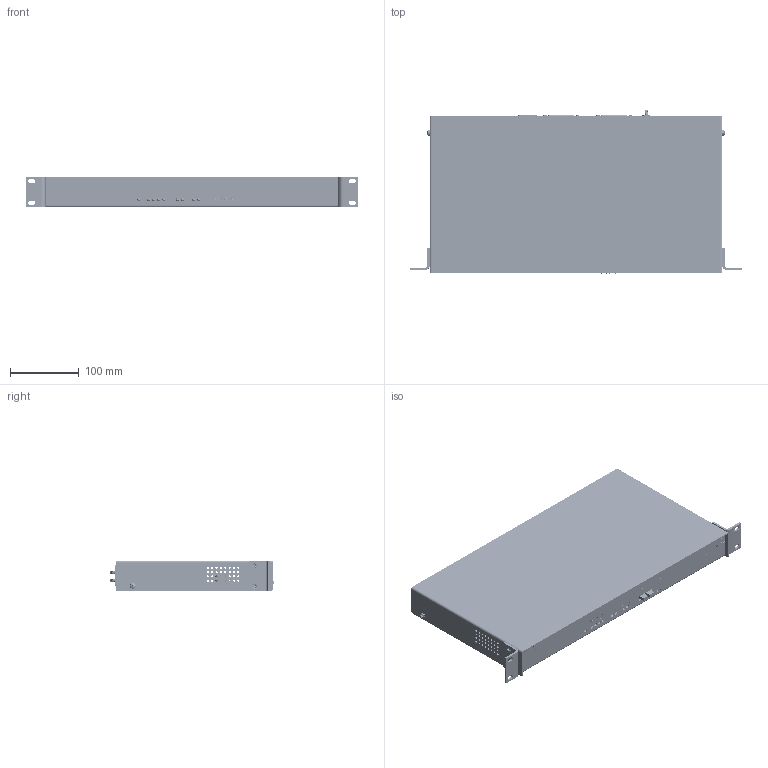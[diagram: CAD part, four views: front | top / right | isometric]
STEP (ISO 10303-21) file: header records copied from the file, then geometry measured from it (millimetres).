
FILE_DESCRIPTION(/* description */ (''),/* implementation_level */ '2;1');
FILE_NAME(/* name */ 'C:/Users/brook/OneDrive/Desktop/Single Chassis Final.step',/* time_stamp */ '2022-05-23T16:12:43-04:00',/* author */ (''),/* organization */ (''),/* preprocessor_version */ 'ST-DEVELOPER v18.1',/* originating_system */ 'Autodesk Translation Framework v10.14.0.1471',/* authorisation */ '');
FILE_SCHEMA (('AUTOMOTIVE_DESIGN { 1 0 10303 214 3 1 1 }'));
Products named in the file (241): Single Chassis Master Assembly; Jack Screw for K42X-B25S-S-A4NJ-rA3; 713008; Standard Bracket; Cover; 708004; Single Chassis; 95345A067_18-8 Stainless Steel Pan Head Screw; 95345A067_18-8 Stainless Steel Pan Head Screw (1); 91771A191_Passivated 18-8 Stainless Steel Phillips Flat Head Screw; 91771A191_Passivated 18-8 Stainless Steel Phillips Flat Head Screw (1
); 91771A191_Passivated 18-8 Stainless Steel Phillips Flat Head Screw (2
); 91771A191_Passivated 18-8 Stainless Steel Phillips Flat Head Screw (3
); 93090A210_Press-Fit Threaded Standoffs; 93580A520_Press-Fit Studs; 96278A411_18-8 Stainless Steel Locknut with External-Tooth Lock Washe
r; PCB; BOARD_OUTLINE; EXTERNAL COPPER; TOP; PADS_TOP; CIRCLE_55001; CIRCLE_250001; CIRCLE_85001; RECT_9000X90001; RECT_7500X75001; CIRCLE_75001; CIRCLE_200001; CIRCLE_65001; RECT_11000X110001; CIRCLE_110001; CIRCLE_68001; RECT_6800X68001; CIRCLE_90001; CIRCLE_150001; CIRCLE_50001; TRACES_TOP; BOTTOM; PADS_BOTTOM; CIRCLE_55004 ...
Assembly tree (2133 placements, depth 6):
  Single Chassis Master Assembly
    93090A210_Press-Fit Threaded Standoffs  x4
    Jack Screw for K42X-B25S-S-A4NJ-rA3  x6
    713008
    Standard Bracket  x2
    Cover
    708004
    Single Chassis
    95345A067_18-8 Stainless Steel Pan Head Screw
    95345A067_18-8 Stainless Steel Pan Head Screw (1)
    91771A191_Passivated 18-8 Stainless Steel Phillips Flat Head Screw
    91771A191_Passivated 18-8 Stainless Steel Phillips Flat Head Screw (1
)
    91771A191_Passivated 18-8 Stainless Steel Phillips Flat Head Screw (2
)
    91771A191_Passivated 18-8 Stainless Steel Phillips Flat Head Screw (3
)
    93580A520_Press-Fit Studs  x2
    96278A411_18-8 Stainless Steel Locknut with External-Tooth Lock Washe
r  x2
    PCB
      BOARD_OUTLINE
      EXTERNAL COPPER
        TOP
          PADS_TOP
            CIRCLE_55001  x110
            RECT_7500X75001  x5
            CIRCLE_75001  x74
            CIRCLE_200001  x6
            CIRCLE_250001  x2
            CIRCLE_68001  x562
            RECT_6800X68001  x81
            CIRCLE_85001  x4
            CIRCLE_90001  x17
            RECT_9000X90001  x4
            CIRCLE_65001  x6
            CIRCLE_50001  x4
            CIRCLE_110001  x7
            RECT_11000X110001
            CIRCLE_150001  x2
          TRACES_TOP
        BOTTOM
          PADS_BOTTOM
            CIRCLE_55004  x110
            RECT_7500X75004  x5
            CIRCLE_75004  x74
            CIRCLE_200004  x6
            CIRCLE_250004  x2
            CIRCLE_68004  x562
            RECT_6800X68004  x81
            CIRCLE_85004  x4
            CIRCLE_90004  x17
            RECT_9000X90004  x4
            CIRCLE_65004  x6
            CIRCLE_50004  x4
            CIRCLE_110004  x7
            RECT_11000X110004
            CIRCLE_150004  x2
          TRACES_BOTTOM
      COMPONENTS
        713000
          K42X-B25S-S-A4N_rA3
        MTG250C130P  x2
        730001
Bounding box: 482.6 x 237.2 x 44.48 mm (x, y, z)
Volume: 555468.5 mm3; surface area: 700910.3 mm2
Topology: 662 solids, 2889 shells, 25283 faces, 66350 edges, 45714 vertices
Faces by surface type: plane 15745, cylinder 4894, bspline 3550, torus 756, cone 270, sphere 68
Full cylindrical faces by diameter (mm): 0.5 x188, 0.635 x6, 0.75 x225, 0.759 x9, 0.8 x16, 0.813 x6, 0.885 x1, 0.9 x12, 0.925 x1, 0.991 x643, 1.143 x4, 1.15 x25, 1.194 x75, 1.2 x50, 1.397 x21, 1.4 x4, 1.524 x4, 1.6 x8, 1.982 x1, 2.02 x64, 2.271 x12, 2.34 x92, 2.35 x6, 2.6 x49, 2.7 x8, 2.72 x4, 2.845 x76, 2.9 x6, 2.921 x2, 3 x3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
Entity records: 575297 total; most frequent: CARTESIAN_POINT 190834, ORIENTED_EDGE 78404, DIRECTION 66577, EDGE_CURVE 41361, VERTEX_POINT 28594, LINE 27759, VECTOR 27759, AXIS2_PLACEMENT_3D 19409
